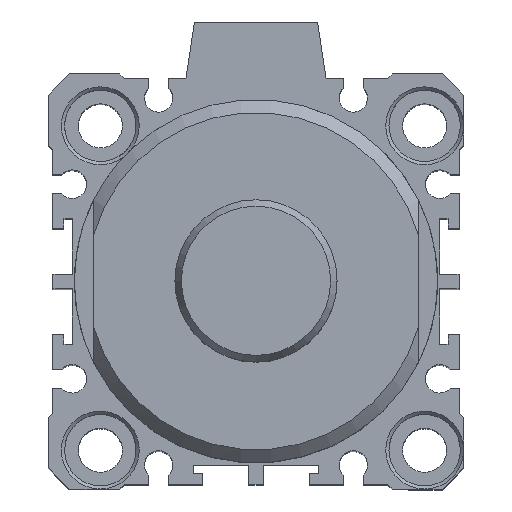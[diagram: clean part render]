
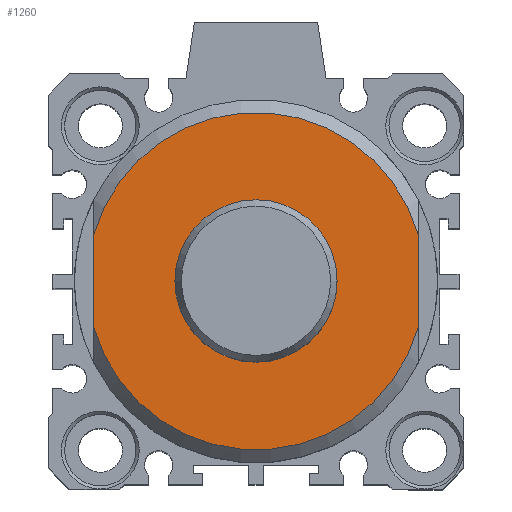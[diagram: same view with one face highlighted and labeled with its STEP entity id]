
A CAD part, top view. The second image highlights one B-rep face of the part: STEP entity #1260.
In plain terms, the highlighted planar face has unit normal (0, 0, 1).
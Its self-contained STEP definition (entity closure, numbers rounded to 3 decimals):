
#49=CARTESIAN_POINT('',(17.943,8.936,112.));
#50=VERTEX_POINT('',#49);
#75=CARTESIAN_POINT('',(-32.057,8.936,112.));
#76=VERTEX_POINT('',#75);
#90=CARTESIAN_POINT('',(-7.057,1.794,112.));
#91=DIRECTION('',(0.0,0.0,-1.0));
#92=DIRECTION('',(0.0,1.0,0.0));
#93=AXIS2_PLACEMENT_3D('',#90,#91,#92);
#94=CIRCLE('',#93,26.);
#95=EDGE_CURVE('',#76,#50,#94,.T.);
#130=CARTESIAN_POINT('',(-32.057,-5.347,112.));
#131=VERTEX_POINT('',#130);
#145=CARTESIAN_POINT('',(-32.057,8.936,112.));
#146=DIRECTION('',(0.0,-1.0,0.0));
#147=VECTOR('',#146,14.283);
#148=LINE('',#145,#147);
#149=EDGE_CURVE('',#76,#131,#148,.T.);
#240=CARTESIAN_POINT('',(17.943,-5.347,112.));
#241=VERTEX_POINT('',#240);
#255=CARTESIAN_POINT('',(-7.057,1.794,112.));
#256=DIRECTION('',(0.0,0.0,-1.0));
#257=DIRECTION('',(0.0,-1.0,0.0));
#258=AXIS2_PLACEMENT_3D('',#255,#256,#257);
#259=CIRCLE('',#258,26.);
#260=EDGE_CURVE('',#241,#131,#259,.T.);
#1178=CARTESIAN_POINT('',(-7.057,14.294,112.));
#1179=VERTEX_POINT('',#1178);
#1180=CARTESIAN_POINT('',(-7.057,1.794,112.));
#1181=DIRECTION('',(0.0,0.0,-1.0));
#1182=DIRECTION('',(0.0,1.0,0.0));
#1183=AXIS2_PLACEMENT_3D('',#1180,#1181,#1182);
#1184=CIRCLE('',#1183,12.5);
#1185=EDGE_CURVE('',#1179,#1179,#1184,.T.);
#1208=CARTESIAN_POINT('',(17.943,-5.347,112.));
#1209=DIRECTION('',(0.0,1.0,0.0));
#1210=VECTOR('',#1209,14.283);
#1211=LINE('',#1208,#1210);
#1212=EDGE_CURVE('',#241,#50,#1211,.T.);
#1246=CARTESIAN_POINT('',(-7.057,22.044,112.));
#1247=DIRECTION('',(0.0,0.0,1.0));
#1248=DIRECTION('',(1.0,0.0,0.0));
#1249=AXIS2_PLACEMENT_3D('',#1246,#1247,#1248);
#1250=PLANE('',#1249);
#1251=ORIENTED_EDGE('',*,*,#95,.F.);
#1252=ORIENTED_EDGE('',*,*,#149,.T.);
#1253=ORIENTED_EDGE('',*,*,#260,.F.);
#1254=ORIENTED_EDGE('',*,*,#1212,.T.);
#1255=EDGE_LOOP('',(#1251,#1252,#1253,#1254));
#1256=FACE_OUTER_BOUND('',#1255,.T.);
#1257=ORIENTED_EDGE('',*,*,#1185,.T.);
#1258=EDGE_LOOP('',(#1257));
#1259=FACE_BOUND('',#1258,.T.);
#1260=ADVANCED_FACE('',(#1256,#1259),#1250,.T.);
